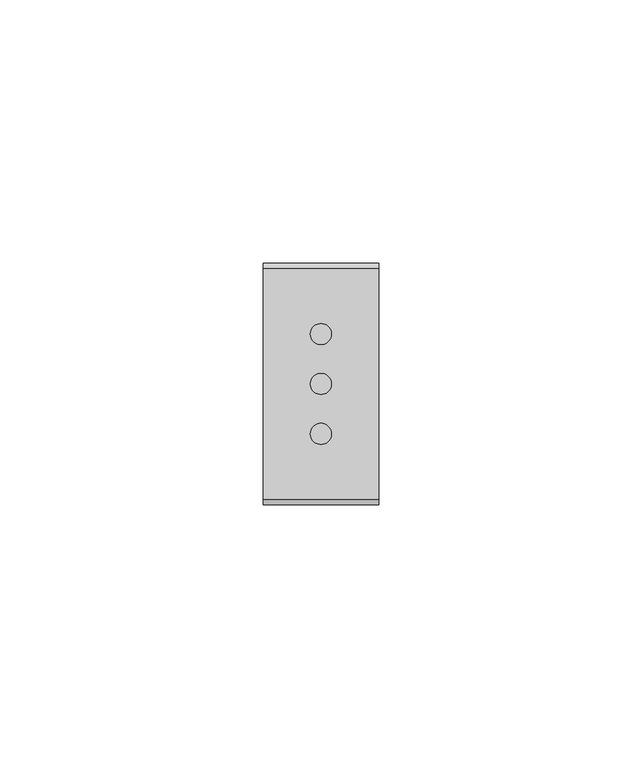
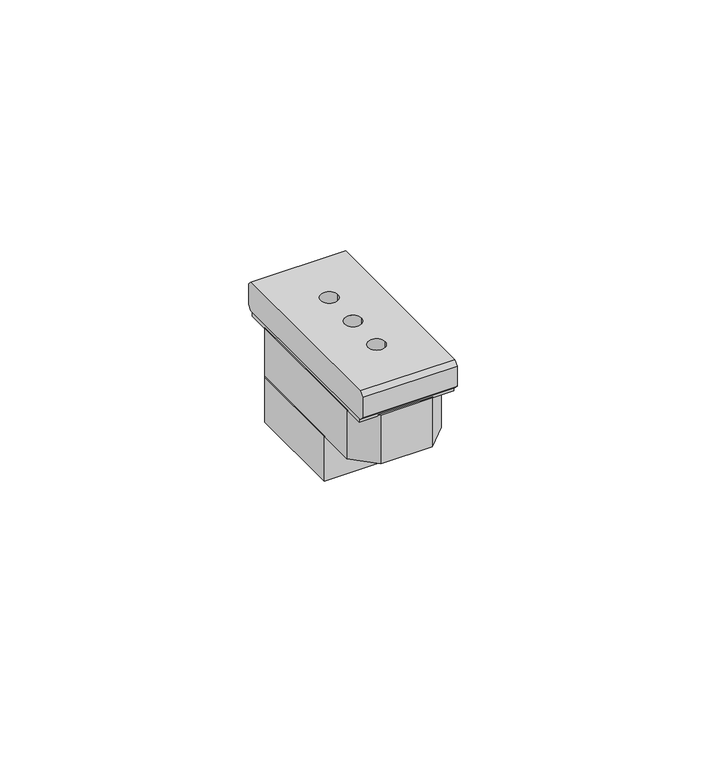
"""IFC4 building model written with IfcOpenShell, lengths in millimetres: proxy geometry, L4113 LI Presa FM 2P+T 10A 250V : L4113 LI Presa FM 2P+T 10A 250V."""

from ifc_helpers import new_model, si_unit, frame, origin, origin_with_axes, place, context, project, spatial, polyline, circle_curve, outline, extrude, source, transform, mapped, element, save
from ifc_brep_helpers import plane_surface, revolved_surface, advanced_brep


def electrical_fixtures_e5b2e129(model_context):
    return source(origin(), model_context, "Body", "SolidModel", [
        advanced_brep(
        [(11.0, -22.0, 1.0), (11.0, 22.0, 1.0), (11.0, 22.9899495, 1.9899495), (11.0, 22.9899495, 6.9899495), (11.0, 22.0, 7.979899), (11.0, -22.0, 7.979899), (11.0, -22.9899495, 6.9899495), (11.0, -22.9899495, 1.9899495), (-11.0, -22.0, 1.0), (-11.0, -22.9899495, 1.9899495), (-11.0, -22.9899495, 6.9899495), (-11.0, -22.0, 7.979899), (-11.0, 22.0, 7.979899), (-11.0, 22.9899495, 6.9899495), (-11.0, 22.9899495, 1.9899495), (-11.0, 22.0, 1.0), (-2.0, 9.5, 1.0), (2.0, 9.5, 1.0), (-2.0, 0.0, 1.0), (2.0, 0.0, 1.0), (-2.0, -9.5, 1.0), (2.0, -9.5, 1.0), (2.0, 9.5, 7.979899), (-2.0, 9.5, 7.979899), (2.0, 0.0, 7.979899), (-2.0, 0.0, 7.979899), (2.0, -9.5, 7.979899), (-2.0, -9.5, 7.979899)],
        [
            (0, 1),
            (1, 2),
            (2, 3),
            (3, 4),
            (4, 5),
            (5, 6),
            (6, 7),
            (7, 0),
            (8, 9),
            (9, 10),
            (10, 11),
            (11, 12),
            (12, 13),
            (13, 14),
            (14, 15),
            (15, 8),
            (0, 8),
            (15, 1),
            (16, 17, circle_curve(frame((0.0, 9.5, 1.0), z_axis=(0.0, 0.0, 1.0), x_axis=(1.0, 0.0, 0.0)), 2.0)),
            (17, 16, circle_curve(frame((0.0, 9.5, 1.0), z_axis=(0.0, 0.0, 1.0), x_axis=(1.0, 0.0, 0.0)), 2.0)),
            (18, 19, circle_curve(frame((0.0, 0.0, 1.0), z_axis=(0.0, 0.0, 1.0), x_axis=(1.0, 0.0, 0.0)), 2.0)),
            (19, 18, circle_curve(frame((0.0, 0.0, 1.0), z_axis=(0.0, 0.0, 1.0), x_axis=(1.0, 0.0, 0.0)), 2.0)),
            (20, 21, circle_curve(frame((0.0, -9.5, 1.0), z_axis=(0.0, 0.0, 1.0), x_axis=(1.0, 0.0, 0.0)), 2.0)),
            (21, 20, circle_curve(frame((0.0, -9.5, 1.0), z_axis=(0.0, 0.0, 1.0), x_axis=(1.0, 0.0, 0.0)), 2.0)),
            (5, 11),
            (10, 6),
            (9, 7),
            (14, 2),
            (13, 3),
            (12, 4),
            (22, 23, circle_curve(frame((0.0, 9.5, 7.979899), z_axis=(0.0, 0.0, -1.0), x_axis=(1.0, 0.0, 0.0)), 2.0)),
            (23, 22, circle_curve(frame((0.0, 9.5, 7.979899), z_axis=(0.0, 0.0, -1.0), x_axis=(1.0, 0.0, 0.0)), 2.0)),
            (24, 25, circle_curve(frame((0.0, 0.0, 7.979899), z_axis=(0.0, 0.0, -1.0), x_axis=(1.0, 0.0, 0.0)), 2.0)),
            (25, 24, circle_curve(frame((0.0, 0.0, 7.979899), z_axis=(0.0, 0.0, -1.0), x_axis=(1.0, 0.0, 0.0)), 2.0)),
            (26, 27, circle_curve(frame((0.0, -9.5, 7.979899), z_axis=(0.0, 0.0, -1.0), x_axis=(1.0, 0.0, 0.0)), 2.0)),
            (27, 26, circle_curve(frame((0.0, -9.5, 7.979899), z_axis=(0.0, 0.0, -1.0), x_axis=(1.0, 0.0, 0.0)), 2.0)),
            (22, 17),
            (16, 23),
            (24, 19),
            (18, 25),
            (26, 21),
            (20, 27),
        ],
        [
            plane_surface(frame((11.0, 0.0, 1.0), z_axis=(1.0, 0.0, 0.0), x_axis=(0.0, 1.0, 0.0))),
            plane_surface(frame((-11.0, 0.0, 1.0), z_axis=(-1.0, 0.0, 0.0), x_axis=(0.0, -1.0, 0.0))),
            plane_surface(frame((11.0, -22.0, 1.0), z_axis=(0.0, 0.0, -1.0), x_axis=(-1.0, 0.0, 0.0))),
            plane_surface(frame((11.0, -22.0, 7.979899), z_axis=(0.0, -0.7071067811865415, 0.7071067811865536), x_axis=(-1.0, 0.0, 0.0))),
            plane_surface(frame((11.0, -22.9899495, 6.9899495), z_axis=(0.0, -1.0, 0.0), x_axis=(-1.0, 0.0, 0.0))),
            plane_surface(frame((11.0, -22.9899495, 1.9899495), z_axis=(0.0, -0.707106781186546, -0.707106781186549), x_axis=(-1.0, 0.0, 0.0))),
            plane_surface(frame((11.0, 22.0, 1.0), z_axis=(0.0, 0.7071067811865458, -0.7071067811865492), x_axis=(-1.0, 0.0, 0.0))),
            plane_surface(frame((11.0, 22.9899495, 1.9899495), z_axis=(0.0, 1.0, 0.0), x_axis=(-1.0, 0.0, 0.0))),
            plane_surface(frame((11.0, 22.9899495, 6.9899495), z_axis=(0.0, 0.7071067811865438, 0.7071067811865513), x_axis=(-1.0, 0.0, 0.0))),
            plane_surface(frame((11.0, 22.0, 7.979899), z_axis=(0.0, 0.0, 1.0), x_axis=(-1.0, 0.0, 0.0))),
            revolved_surface(polyline([(2.0, 9.5, 7.979899), (2.0, 9.5, 1.0)]), (0.0, 9.5, 1.0), (0.0, 0.0, 1.0)),
            revolved_surface(polyline([(2.0, 0.0, 7.979899), (2.0, 0.0, 1.0)]), (0.0, 0.0, 0.0), (0.0, 0.0, 1.0)),
            revolved_surface(polyline([(2.0, -9.5, 7.979899), (2.0, -9.5, 1.0)]), (0.0, -9.5, 0.0), (0.0, 0.0, 1.0)),
        ],
        [
            (0, [[1, 2, 3, 4, 5, 6, 7, 8]]),
            (1, [[9, 10, 11, 12, 13, 14, 15, 16]]),
            (2, [[-1, 17, -16, 18], [19, 20], [21, 22], [23, 24]]),
            (3, [[-6, 25, -11, 26]]),
            (4, [[-7, -26, -10, 27]]),
            (5, [[-8, -27, -9, -17]]),
            (6, [[-2, -18, -15, 28]]),
            (7, [[-3, -28, -14, 29]]),
            (8, [[-4, -29, -13, 30]]),
            (9, [[-5, -30, -12, -25], [31, 32], [33, 34], [35, 36]]),
            (10, [[37, -19, 38, -31]]),
            (10, [[-37, -32, -38, -20]]),
            (11, [[39, -21, 40, -33]]),
            (11, [[-39, -34, -40, -22]]),
            (12, [[41, -23, 42, -35]]),
            (12, [[-41, -36, -42, -24]]),
        ],
    ),
        extrude(outline(polyline([(-11.0, -7.5), (-11.0, 16.5), (-9.0, 18.5), (9.0, 18.5), (11.0, 16.5), (11.0, -7.5), (-11.0, -7.5)])), frame((0.0, 0.0, -23.0), z_axis=(0.0, 0.0, 1.0), x_axis=(1.0, 0.0, 0.0)), (0.0, 0.0, 1.0), 11.0),
        extrude(outline(polyline([(11.0, -16.5), (6.0, -21.5), (-6.0, -21.5), (-11.0, -16.5), (-11.0, 16.5), (-6.0, 21.5), (6.0, 21.5), (11.0, 16.5), (11.0, -16.5)])), frame((0.0, 0.0, -12.0), z_axis=(0.0, 0.0, 1.0), x_axis=(1.0, 0.0, 0.0)), (0.0, 0.0, 1.0), 12.0),
        extrude(outline(polyline([(11.0, -21.5), (-11.0, -21.5), (-11.0, 21.5), (11.0, 21.5), (11.0, -21.5)])), origin_with_axes(), (0.0, 0.0, 1.0), 1.0),
    ])


if __name__ == "__main__":
    model = new_model("IFC4")
    model_context = context("Model", 3, world=origin())
    ifc_project = project(units=[si_unit("LENGTHUNIT", "METRE", prefix="MILLI")], contexts=[model_context])
    site = spatial("IfcSite", under=ifc_project)
    building = spatial("IfcBuilding", under=site)
    placement = place(None, origin())
    electrical_fixtures_shape = electrical_fixtures_e5b2e129(model_context)
    element("IfcBuildingElementProxy", 1, Name="L4113 LI Presa FM 2P+T 10A 250V : L4113 LI Presa FM 2P+T 10A 250V", ObjectType="L4113 LI Presa FM 2P+T 10A 250V : L4113 LI Presa FM 2P+T 10A 250V", at=placement, inside=building, context=model_context, shape_type="MappedRepresentation", body=[
        mapped(electrical_fixtures_shape, transform((0.0, 0.0, 0.0), x_axis=(1.0, 0.0, 0.0), y_axis=(0.0, 1.0, 0.0), z_axis=(0.0, 0.0, 1.0))),
    ])
    save(model, "model.ifc")
